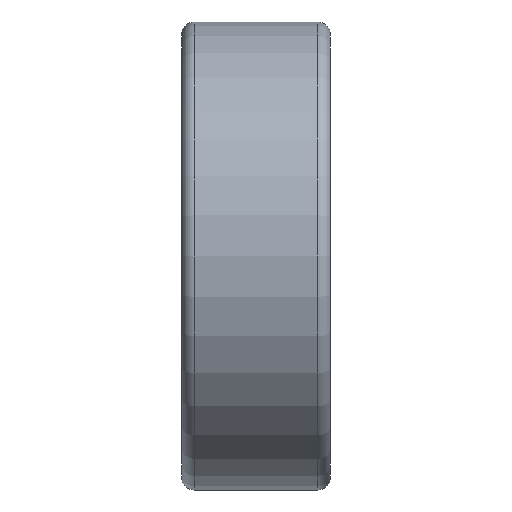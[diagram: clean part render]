
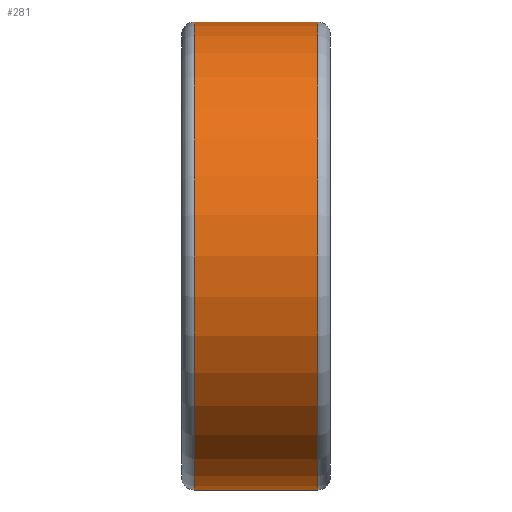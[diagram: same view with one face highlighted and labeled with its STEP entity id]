
A CAD part, front view. The second image highlights one B-rep face of the part: STEP entity #281.
In plain terms, the highlighted cylindrical face has radius 11 mm (diameter 22 mm), a partial arc.
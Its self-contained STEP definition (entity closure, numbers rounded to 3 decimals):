
#5 = EDGE_CURVE ( 'NONE', #98, #168, #203, .T. ) ;
#47 = ORIENTED_EDGE ( 'NONE', *, *, #278, .T. ) ;
#57 = EDGE_LOOP ( 'NONE', ( #224, #47, #63, #257 ) ) ;
#63 = ORIENTED_EDGE ( 'NONE', *, *, #5, .T. ) ;
#64 = EDGE_CURVE ( 'NONE', #168, #159, #445, .T. ) ;
#98 = VERTEX_POINT ( 'NONE', #531 ) ;
#102 = EDGE_CURVE ( 'NONE', #172, #159, #478, .T. ) ;
#159 = VERTEX_POINT ( 'NONE', #591 ) ;
#168 = VERTEX_POINT ( 'NONE', #577 ) ;
#172 = VERTEX_POINT ( 'NONE', #565 ) ;
#200 = DIRECTION ( 'NONE',  ( 1., 0., 0. ) ) ;
#201 = VECTOR ( 'NONE', #200, 1000. ) ;
#202 = CARTESIAN_POINT ( 'NONE',  ( 3.5, 0., -11. ) ) ;
#203 = LINE ( 'NONE', #202, #201 ) ;
#224 = ORIENTED_EDGE ( 'NONE', *, *, #102, .F. ) ;
#257 = ORIENTED_EDGE ( 'NONE', *, *, #64, .T. ) ;
#278 = EDGE_CURVE ( 'NONE', #172, #98, #727, .T. ) ;
#281 = ADVANCED_FACE ( 'NONE', ( #710 ), #739, .T. ) ;
#441 = DIRECTION ( 'NONE',  ( 0., 0., -1. ) ) ;
#442 = DIRECTION ( 'NONE',  ( -1., 0., 0. ) ) ;
#443 = CARTESIAN_POINT ( 'NONE',  ( 2.9, 0., 0. ) ) ;
#444 = AXIS2_PLACEMENT_3D ( 'NONE', #443, #442, #441 ) ;
#445 = CIRCLE ( 'NONE', #444, 11. ) ;
#475 = DIRECTION ( 'NONE',  ( 1., 0., 0. ) ) ;
#476 = VECTOR ( 'NONE', #475, 1000. ) ;
#477 = CARTESIAN_POINT ( 'NONE',  ( 3.5, 0., 11. ) ) ;
#478 = LINE ( 'NONE', #477, #476 ) ;
#531 = CARTESIAN_POINT ( 'NONE',  ( -2.9, 0., -11. ) ) ;
#565 = CARTESIAN_POINT ( 'NONE',  ( -2.9, 0., 11. ) ) ;
#577 = CARTESIAN_POINT ( 'NONE',  ( 2.9, 0., -11. ) ) ;
#591 = CARTESIAN_POINT ( 'NONE',  ( 2.9, 0., 11. ) ) ;
#710 = FACE_OUTER_BOUND ( 'NONE', #57, .T. ) ;
#711 = DIRECTION ( 'NONE',  ( 0., 0., -1. ) ) ;
#712 = DIRECTION ( 'NONE',  ( 0., 0., 1. ) ) ;
#713 = DIRECTION ( 'NONE',  ( 1., 0., 0. ) ) ;
#715 = DIRECTION ( 'NONE',  ( 1., 0., 0. ) ) ;
#717 = AXIS2_PLACEMENT_3D ( 'NONE', #728, #715, #711 ) ;
#718 = AXIS2_PLACEMENT_3D ( 'NONE', #721, #713, #712 ) ;
#721 = CARTESIAN_POINT ( 'NONE',  ( -2.9, 0., 0. ) ) ;
#727 = CIRCLE ( 'NONE', #718, 11. ) ;
#728 = CARTESIAN_POINT ( 'NONE',  ( 3.5, 0., 0. ) ) ;
#739 = CYLINDRICAL_SURFACE ( 'NONE', #717, 11. ) ;
